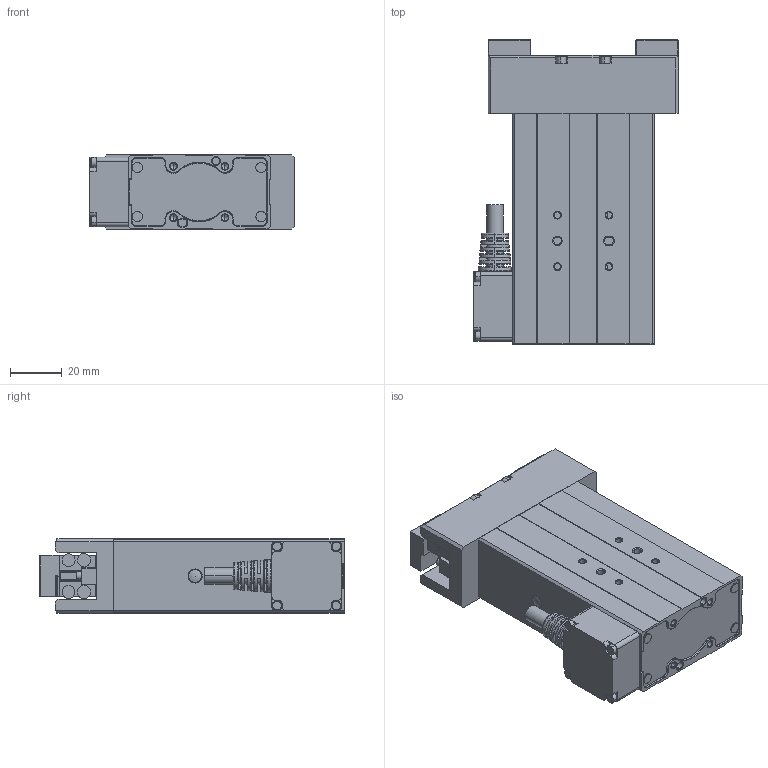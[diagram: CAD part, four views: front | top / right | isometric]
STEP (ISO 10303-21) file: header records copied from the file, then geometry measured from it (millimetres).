
FILE_DESCRIPTION (( 'STEP AP203' ), '1' );
FILE_NAME ('PGEA-50-40 - 剞攜郪璃耀倰.STEP', '2024-12-26T03:57:59', ( '' ), ( '' ), 'SwSTEP 2.0', 'SolidWorks 2020', '' );
FILE_SCHEMA (( 'CONFIG_CONTROL_DESIGN' ));
Length unit declared in the file: millimetre
Products named in the file (20): 电爪主体^PGEA-50-40 - 虚拟组件模型; 复件 PGEA-M12普通网尾^电爪主体_PGEA-50-40 - 虚拟组件模型; 复件 PGE-50新基座0.5模数^右基座_PGEA-50-40 - 虚拟组件模型; hexagon socket head cap screws gb._GB_FASTENER_SCREWS_HSHCS M2X16-N; 复件 PGE50_Main cover^电爪主体_PGEA-50-40 - 虚拟组件模型; 复件 LIGHT-PIPE^电爪主体_PGEA-50-40 - 虚拟组件模型; 复件 PGEA底盖^电爪主体_PGEA-50-40 - 虚拟组件模型; hexagon socket head cap screws gb.._GB_FASTENER_SCREWS_HSHCS M2X8-N; 复件 网尾安装件A(1)(1)^电爪主体_PGEA-50-40 - 虚拟组件模型; hexagon socket head cap screws gb._GB_FASTENER_SCREWS_HSHCS M2X8-N; 复件 挡片优化^电爪主体_PGEA-50-40 - 虚拟组件模型; 复件 M2-4-4头-0.5厚^电爪主体_PGEA-50-40 - 虚拟组件模型; 复件 M2-2-5头-0.5厚^左基座_PGEA-50-40 - 虚拟组件模型; PGEA-50-40 - 剞攜郪璃耀倰; 复件 PGE-50U件连接板^电爪主体_PGEA-50-40 - 虚拟组件模型; 右基座^PGEA-50-40 - 虚拟组件模型; 复件 M2.5x25 头径3.8宽度2.5小圆柱头^电爪主体_PGEA-50-40 - 虚拟组件模型; 复件 PGE-50新基座0.5模数^左基座_PGEA-50-40 - 虚拟组件模型; 左基座^PGEA-50-40 - 虚拟组件模型; 复件 M2-2-5头-0.5厚^右基座_PGEA-50-40 - 虚拟组件模型
Assembly tree (37 placements, depth 3):
  PGEA-50-40 - 剞攜郪璃耀倰
    电爪主体^PGEA-50-40 - 虚拟组件模型
      复件 PGE-50U件连接板^电爪主体_PGEA-50-40 - 虚拟组件模型
      复件 PGE50_Main cover^电爪主体_PGEA-50-40 - 虚拟组件模型
      复件 PGEA底盖^电爪主体_PGEA-50-40 - 虚拟组件模型
      复件 LIGHT-PIPE^电爪主体_PGEA-50-40 - 虚拟组件模型
      hexagon socket head cap screws gb._GB_FASTENER_SCREWS_HSHCS M2X8-N  x3
      hexagon socket head cap screws gb.._GB_FASTENER_SCREWS_HSHCS M2X8-N
      hexagon socket head cap screws gb._GB_FASTENER_SCREWS_HSHCS M2X16-N  x4
      复件 M2.5x25 头径3.8宽度2.5小圆柱头^电爪主体_PGEA-50-40 - 虚拟组件模型  x4
      复件 M2-4-4头-0.5厚^电爪主体_PGEA-50-40 - 虚拟组件模型  x4
      复件 网尾安装件A(1)(1)^电爪主体_PGEA-50-40 - 虚拟组件模型
      复件 PGEA-M12普通网尾^电爪主体_PGEA-50-40 - 虚拟组件模型
      复件 挡片优化^电爪主体_PGEA-50-40 - 虚拟组件模型  x2
    左基座^PGEA-50-40 - 虚拟组件模型
      复件 PGE-50新基座0.5模数^左基座_PGEA-50-40 - 虚拟组件模型
      复件 M2-2-5头-0.5厚^左基座_PGEA-50-40 - 虚拟组件模型  x4
    右基座^PGEA-50-40 - 虚拟组件模型
      复件 PGE-50新基座0.5模数^右基座_PGEA-50-40 - 虚拟组件模型
      复件 M2-2-5头-0.5厚^右基座_PGEA-50-40 - 虚拟组件模型  x4
Bounding box: 79.4 x 118 x 29 mm (x, y, z)
Volume: 193796.5 mm3; surface area: 49851.4 mm2
Topology: 34 solids, 34 shells, 1123 faces, 2608 edges, 1612 vertices
Faces by surface type: plane 464, cylinder 342, cone 236, torus 51, bspline 29, sphere 1
Entity records: 30937 total; most frequent: CARTESIAN_POINT 6045, DIRECTION 4821, ORIENTED_EDGE 4506, EDGE_CURVE 2253, AXIS2_PLACEMENT_3D 1764, VERTEX_POINT 1400, VECTOR 1293, LINE 1293
